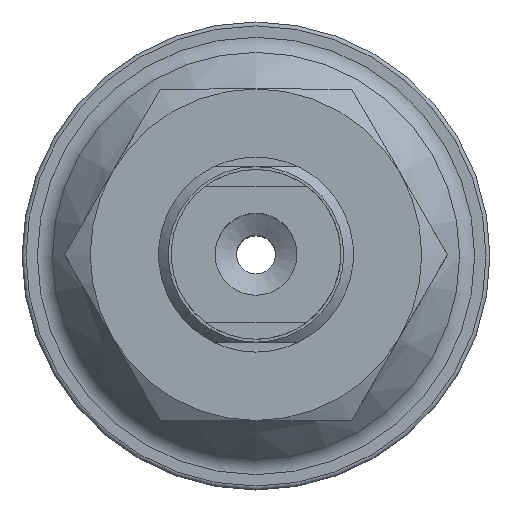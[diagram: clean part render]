
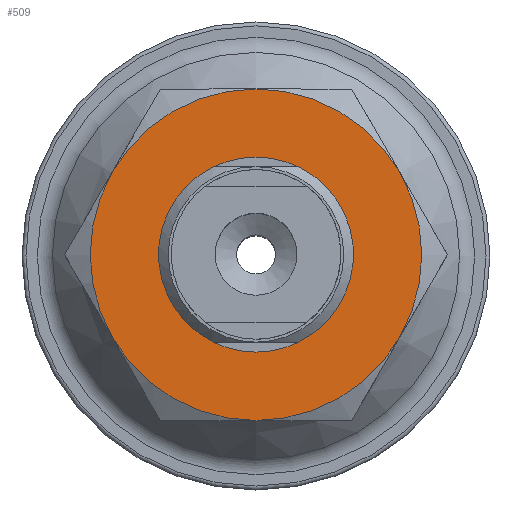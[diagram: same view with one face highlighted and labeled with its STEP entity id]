
A CAD part, top view. The second image highlights one B-rep face of the part: STEP entity #509.
In plain terms, the highlighted planar face has unit normal (0, 0, 1).
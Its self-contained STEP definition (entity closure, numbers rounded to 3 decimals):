
#509=ADVANCED_FACE('',(#722,#723),#724,.T.);
#722=FACE_BOUND('',#1024,.T.);
#723=FACE_OUTER_BOUND('',#1025,.T.);
#724=PLANE('',#1026);
#1024=EDGE_LOOP('',(#1618));
#1025=EDGE_LOOP('',(#1619,#1620,#1621,#1622,#1623,#1624));
#1026=AXIS2_PLACEMENT_3D('',#1625,#1626,#1627);
#1618=ORIENTED_EDGE('',*,*,#2092,.F.);
#1619=ORIENTED_EDGE('',*,*,#2097,.F.);
#1620=ORIENTED_EDGE('',*,*,#2099,.F.);
#1621=ORIENTED_EDGE('',*,*,#2078,.F.);
#1622=ORIENTED_EDGE('',*,*,#2073,.F.);
#1623=ORIENTED_EDGE('',*,*,#2101,.F.);
#1624=ORIENTED_EDGE('',*,*,#2098,.F.);
#1625=CARTESIAN_POINT('',(-9.815,-8.5,4.0));
#1626=DIRECTION('',(0.0,0.0,1.0));
#1627=DIRECTION('',(1.0,0.0,0.0));
#2073=EDGE_CURVE('',#2358,#2361,#2362,.T.);
#2078=EDGE_CURVE('',#2361,#2346,#2368,.T.);
#2092=EDGE_CURVE('',#2392,#2392,#2393,.T.);
#2097=EDGE_CURVE('',#2387,#2396,#2399,.T.);
#2098=EDGE_CURVE('',#2396,#2381,#2400,.T.);
#2099=EDGE_CURVE('',#2346,#2387,#2401,.T.);
#2101=EDGE_CURVE('',#2381,#2358,#2403,.T.);
#2346=VERTEX_POINT('',#2854);
#2358=VERTEX_POINT('',#2884);
#2361=VERTEX_POINT('',#2895);
#2362=CIRCLE('',#2896,8.5);
#2368=CIRCLE('',#2918,8.5);
#2381=VERTEX_POINT('',#2948);
#2387=VERTEX_POINT('',#2967);
#2392=VERTEX_POINT('',#2980);
#2393=CIRCLE('',#2981,4.5);
#2396=VERTEX_POINT('',#2988);
#2399=CIRCLE('',#2999,8.5);
#2400=CIRCLE('',#3000,8.5);
#2401=CIRCLE('',#3001,8.5);
#2403=CIRCLE('',#3003,8.5);
#2854=CARTESIAN_POINT('',(7.361,-4.25,4.0));
#2884=CARTESIAN_POINT('',(0.,8.5,4.0));
#2895=CARTESIAN_POINT('',(7.361,4.25,4.0));
#2896=AXIS2_PLACEMENT_3D('',#3334,#3335,#3336);
#2918=AXIS2_PLACEMENT_3D('',#3337,#3338,#3339);
#2948=CARTESIAN_POINT('',(-7.361,4.25,4.0));
#2967=CARTESIAN_POINT('',(0.,-8.5,4.0));
#2980=CARTESIAN_POINT('',(0.0,-4.5,4.0));
#2981=AXIS2_PLACEMENT_3D('',#3348,#3349,#3350);
#2988=CARTESIAN_POINT('',(-7.361,-4.25,4.0));
#2999=AXIS2_PLACEMENT_3D('',#3354,#3355,#3356);
#3000=AXIS2_PLACEMENT_3D('',#3357,#3358,#3359);
#3001=AXIS2_PLACEMENT_3D('',#3360,#3361,#3362);
#3003=AXIS2_PLACEMENT_3D('',#3366,#3367,#3368);
#3334=CARTESIAN_POINT('',(0.,0.,4.0));
#3335=DIRECTION('',(0.,0.,-1.0));
#3336=DIRECTION('',(0.866,0.5,0.));
#3337=CARTESIAN_POINT('',(0.,0.,4.0));
#3338=DIRECTION('',(0.,0.,-1.0));
#3339=DIRECTION('',(0.866,0.5,0.));
#3348=CARTESIAN_POINT('',(0.0,0.0,4.0));
#3349=DIRECTION('',(0.0,0.,1.0));
#3350=DIRECTION('',(0.0,-1.0,0.));
#3354=CARTESIAN_POINT('',(0.,0.,4.0));
#3355=DIRECTION('',(0.,0.,-1.0));
#3356=DIRECTION('',(0.866,0.5,0.));
#3357=CARTESIAN_POINT('',(0.,0.,4.0));
#3358=DIRECTION('',(0.,0.,-1.0));
#3359=DIRECTION('',(0.866,0.5,0.));
#3360=CARTESIAN_POINT('',(0.,0.,4.0));
#3361=DIRECTION('',(0.,0.,-1.0));
#3362=DIRECTION('',(0.866,0.5,0.));
#3366=CARTESIAN_POINT('',(0.,0.,4.0));
#3367=DIRECTION('',(0.,0.,-1.0));
#3368=DIRECTION('',(0.866,0.5,0.));
